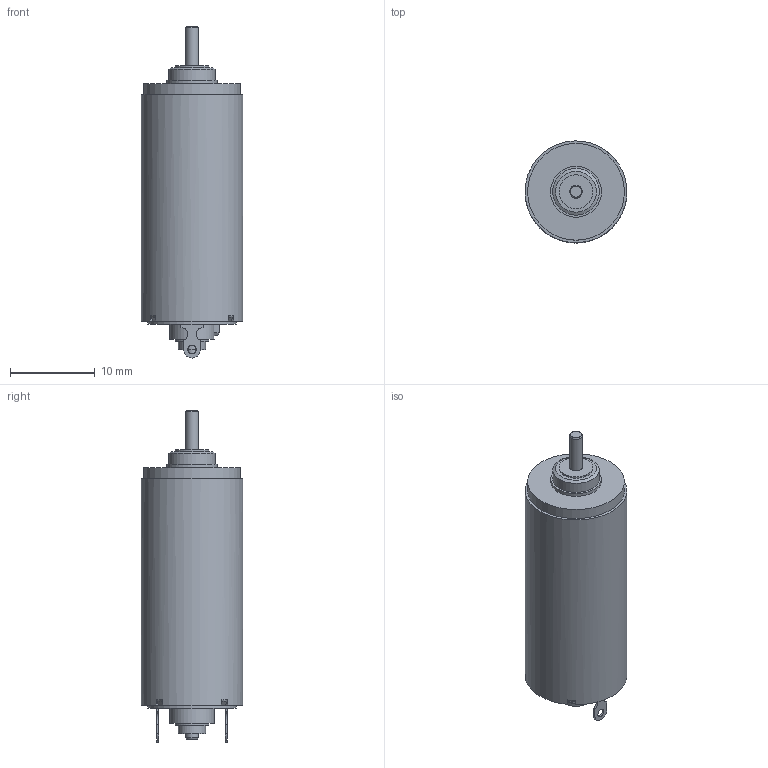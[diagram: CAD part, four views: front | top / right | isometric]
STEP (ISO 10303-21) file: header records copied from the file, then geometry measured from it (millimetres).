
FILE_DESCRIPTION(/* description */ (''),/* implementation_level */ '2;1');
FILE_NAME(/* name */ '1228SXR.stp',/* time_stamp */ '2024-10-29T10:39:46+01:00',/* author */ ('DR. FRITZ FAULHABER GmbH & Co. KG'),/* organization */ ('DR. FRITZ FAULHABER GmbH & Co. KG'),/* preprocessor_version */ 'ST-DEVELOPER v19.3',/* originating_system */ 'SIEMENS PLM Software NX2212.4000',/* authorisation */ '');
FILE_SCHEMA (('AUTOMOTIVE_DESIGN { 1 0 10303 214 3 1 1 1 }'));
Length unit declared in the file: millimetre
Products named in the file (1): A_objects
Bounding box: 12 x 12 x 39.1 mm (x, y, z)
Volume: 3287.9 mm3; surface area: 1421.5 mm2
Topology: 1 solids, 1 shells, 92 faces, 224 edges, 148 vertices
Faces by surface type: plane 57, cylinder 28, bspline 4, cone 3
Full cylindrical faces by diameter (mm): 1 x2, 1.2 x1, 1.5 x2, 3.2 x1, 4 x2, 5.2 x1, 5.5 x1, 6 x1, 10.4 x1, 11.4 x1, 12 x1
Entity records: 2697 total; most frequent: CARTESIAN_POINT 534, DIRECTION 447, ORIENTED_EDGE 408, EDGE_CURVE 204, AXIS2_PLACEMENT_3D 162, VERTEX_POINT 145, EDGE_LOOP 127, LINE 123
